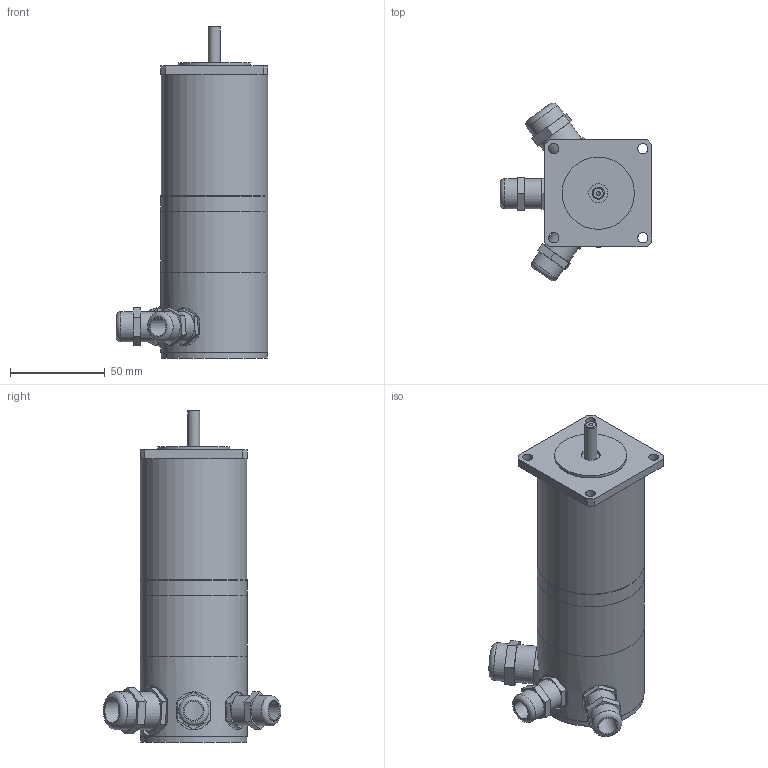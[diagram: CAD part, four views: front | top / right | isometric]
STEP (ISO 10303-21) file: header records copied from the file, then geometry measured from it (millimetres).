
FILE_DESCRIPTION((''),'2;1');
FILE_NAME('C:\Users\Reinhard\Documents\Inventor\Testschrittmotor\SM56\step files\SM 56.2-BE50-KV.stp','2020-02-24T20:32:48',('Reinhard'),(''),'Autodesk Inventor 2012','Autodesk Inventor 2012','');
FILE_SCHEMA(('CONFIG_CONTROL_DESIGN'));
Length unit declared in the file: millimetre
Products named in the file (1): SM 56.2-BE50-KV_Konturvereinfachung_1
Bounding box: 80 x 93.72 x 175.2 mm (x, y, z)
Volume: 105604.1 mm3; surface area: 74867.1 mm2
Topology: 2 solids, 3 shells, 134 faces, 295 edges, 195 vertices
Faces by surface type: plane 86, cylinder 42, torus 4, cone 2
Full cylindrical faces by diameter (mm): 2 x1, 5.4 x4, 6.35 x2, 10 x3, 12 x3, 13 x2, 15 x3, 16 x4, 18.376 x1, 20 x3, 38.1 x1, 48 x1, 51.5 x1, 53.5 x1, 54.5 x1, 56 x1, 56.5 x4
Entity records: 3648 total; most frequent: CARTESIAN_POINT 758, DIRECTION 584, ORIENTED_EDGE 490, EDGE_CURVE 245, EDGE_LOOP 222, AXIS2_PLACEMENT_3D 219, VERTEX_POINT 187, VECTOR 146
